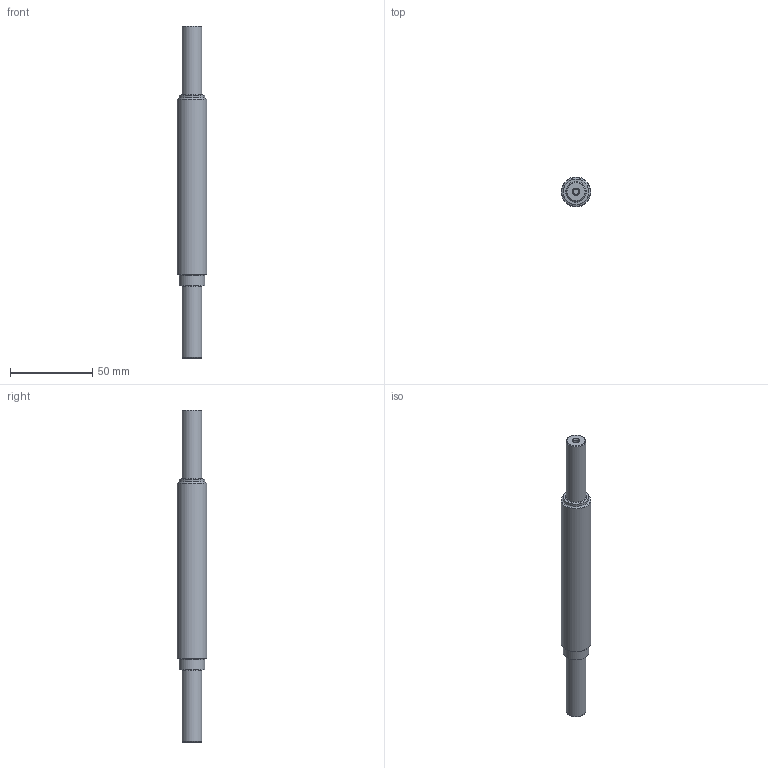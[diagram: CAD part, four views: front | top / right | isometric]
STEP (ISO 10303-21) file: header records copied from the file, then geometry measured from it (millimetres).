
FILE_DESCRIPTION(('Open CASCADE Model'),'2;1');
FILE_NAME('Open CASCADE Shape Model','2026-09-23T04:43:19',('Author'),( 'Open CASCADE'),'Open CASCADE STEP processor 7.9','Open CASCADE 7.9' ,'Unknown');
FILE_SCHEMA(('AUTOMOTIVE_DESIGN { 1 0 10303 214 1 1 1 1 }'));
Length unit declared in the file: millimetre
Products named in the file (1): Open CASCADE STEP translator 7.9 1
Bounding box: 18 x 18 x 202 mm (x, y, z)
Volume: 38422.4 mm3; surface area: 10405.2 mm2
Topology: 1 solids, 1 shells, 23 faces, 37 edges, 22 vertices
Faces by surface type: plane 8, cylinder 7, cone 4, torus 4
Full cylindrical faces by diameter (mm): 3.3 x2, 12 x2, 15.5 x2, 18 x1
Entity records: 1012 total; most frequent: DIRECTION 173, CARTESIAN_POINT 169, ORIENTED_EDGE 74, PCURVE 74, DEFINITIONAL_REPRESENTATION 74, LINE 59, VECTOR 59, AXIS2_PLACEMENT_3D 50
